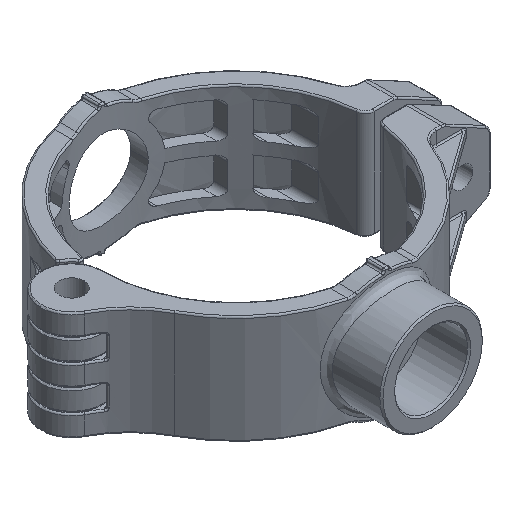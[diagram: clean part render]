
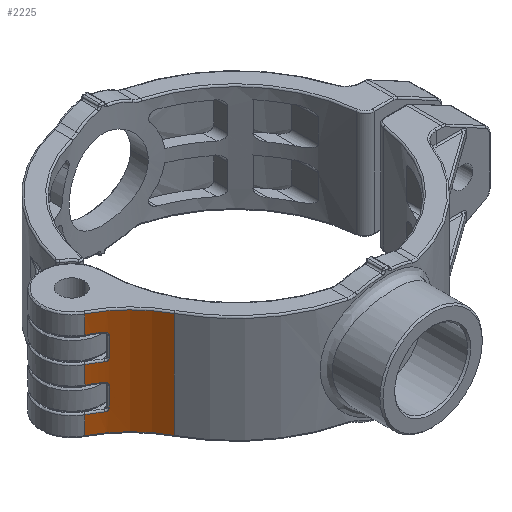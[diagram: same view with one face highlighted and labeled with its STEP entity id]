
A CAD part, isometric view. The second image highlights one B-rep face of the part: STEP entity #2225.
In plain terms, the highlighted cylindrical face has radius 35 mm (diameter 70 mm), a partial arc.
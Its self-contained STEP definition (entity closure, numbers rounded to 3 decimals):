
#354=FACE_OUTER_BOUND('',#3442,.T.);
#1095=LINE('',#13244,#1521);
#1116=LINE('',#13860,#1542);
#1117=LINE('',#13874,#1543);
#1118=LINE('',#13887,#1544);
#1119=LINE('',#13890,#1545);
#1120=LINE('',#13903,#1546);
#1521=VECTOR('',#10603,1.);
#1542=VECTOR('',#10760,1.);
#1543=VECTOR('',#10763,1.);
#1544=VECTOR('',#10766,1.);
#1545=VECTOR('',#10769,1.);
#1546=VECTOR('',#10772,1.);
#1954=CYLINDRICAL_SURFACE('',#9635,35.);
#2225=ADVANCED_FACE('',(#354),#1954,.F.);
#2827=CIRCLE('',#9628,35.);
#2828=CIRCLE('',#9630,35.);
#2829=CIRCLE('',#9631,35.);
#2830=CIRCLE('',#9632,35.);
#2831=CIRCLE('',#9633,35.);
#2832=CIRCLE('',#9634,35.);
#3442=EDGE_LOOP('',(#4206,#4207,#4208,#4209,#4210,#4211,#4212,#4213,#4214,
#4215,#4216,#4217,#4218,#4219,#4220,#4221));
#4206=ORIENTED_EDGE('',*,*,#7898,.T.);
#4207=ORIENTED_EDGE('',*,*,#7899,.T.);
#4208=ORIENTED_EDGE('',*,*,#7900,.T.);
#4209=ORIENTED_EDGE('',*,*,#7901,.F.);
#4210=ORIENTED_EDGE('',*,*,#7902,.T.);
#4211=ORIENTED_EDGE('',*,*,#7903,.T.);
#4212=ORIENTED_EDGE('',*,*,#7904,.T.);
#4213=ORIENTED_EDGE('',*,*,#7905,.T.);
#4214=ORIENTED_EDGE('',*,*,#7796,.F.);
#4215=ORIENTED_EDGE('',*,*,#7897,.T.);
#4216=ORIENTED_EDGE('',*,*,#7906,.T.);
#4217=ORIENTED_EDGE('',*,*,#7907,.T.);
#4218=ORIENTED_EDGE('',*,*,#7908,.T.);
#4219=ORIENTED_EDGE('',*,*,#7909,.F.);
#4220=ORIENTED_EDGE('',*,*,#7910,.T.);
#4221=ORIENTED_EDGE('',*,*,#7911,.T.);
#6917=VERTEX_POINT('',#13243);
#6918=VERTEX_POINT('',#13245);
#6991=VERTEX_POINT('',#13857);
#6992=VERTEX_POINT('',#13861);
#6993=VERTEX_POINT('',#13862);
#6994=VERTEX_POINT('',#13864);
#6995=VERTEX_POINT('',#13873);
#6996=VERTEX_POINT('',#13875);
#6997=VERTEX_POINT('',#13884);
#6998=VERTEX_POINT('',#13886);
#6999=VERTEX_POINT('',#13888);
#7000=VERTEX_POINT('',#13891);
#7001=VERTEX_POINT('',#13893);
#7002=VERTEX_POINT('',#13902);
#7003=VERTEX_POINT('',#13904);
#7004=VERTEX_POINT('',#13913);
#7796=EDGE_CURVE('',#6917,#6918,#1095,.T.);
#7897=EDGE_CURVE('',#6917,#6991,#2827,.T.);
#7898=EDGE_CURVE('',#6992,#6993,#1116,.T.);
#7899=EDGE_CURVE('',#6993,#6994,#2828,.T.);
#7900=EDGE_CURVE('',#6994,#6995,#9239,.T.);
#7901=EDGE_CURVE('',#6996,#6995,#1117,.T.);
#7902=EDGE_CURVE('',#6996,#6997,#9240,.T.);
#7903=EDGE_CURVE('',#6997,#6998,#2829,.T.);
#7904=EDGE_CURVE('',#6998,#6999,#1118,.T.);
#7905=EDGE_CURVE('',#6999,#6918,#2830,.T.);
#7906=EDGE_CURVE('',#6991,#7000,#1119,.T.);
#7907=EDGE_CURVE('',#7000,#7001,#2831,.T.);
#7908=EDGE_CURVE('',#7001,#7002,#9241,.T.);
#7909=EDGE_CURVE('',#7003,#7002,#1120,.T.);
#7910=EDGE_CURVE('',#7003,#7004,#9242,.T.);
#7911=EDGE_CURVE('',#7004,#6992,#2832,.T.);
#9239=B_SPLINE_CURVE_WITH_KNOTS('',3,(#13865,#13866,#13867,#13868,#13869,
#13870,#13871,#13872),.UNSPECIFIED.,.F.,.F.,(4,1,1,1,1,4),(0.,0.2,0.4,0.6,
0.8,1.),.UNSPECIFIED.);
#9240=B_SPLINE_CURVE_WITH_KNOTS('',3,(#13876,#13877,#13878,#13879,#13880,
#13881,#13882,#13883),.UNSPECIFIED.,.F.,.F.,(4,1,1,1,1,4),(0.,0.2,0.4,0.6,
0.8,1.),.UNSPECIFIED.);
#9241=B_SPLINE_CURVE_WITH_KNOTS('',3,(#13894,#13895,#13896,#13897,#13898,
#13899,#13900,#13901),.UNSPECIFIED.,.F.,.F.,(4,1,1,1,1,4),(0.,0.2,0.4,0.6,
0.8,1.),.UNSPECIFIED.);
#9242=B_SPLINE_CURVE_WITH_KNOTS('',3,(#13905,#13906,#13907,#13908,#13909,
#13910,#13911,#13912),.UNSPECIFIED.,.F.,.F.,(4,1,1,1,1,4),(0.,0.2,0.4,0.6,
0.8,1.),.UNSPECIFIED.);
#9628=AXIS2_PLACEMENT_3D('',#13858,#10756,#10757);
#9630=AXIS2_PLACEMENT_3D('',#13863,#10761,#10762);
#9631=AXIS2_PLACEMENT_3D('',#13885,#10764,#10765);
#9632=AXIS2_PLACEMENT_3D('',#13889,#10767,#10768);
#9633=AXIS2_PLACEMENT_3D('',#13892,#10770,#10771);
#9634=AXIS2_PLACEMENT_3D('',#13914,#10773,#10774);
#9635=AXIS2_PLACEMENT_3D('',#13915,#10775,#10776);
#10603=DIRECTION('',(0.,0.,-1.));
#10756=DIRECTION('',(0.,0.,1.));
#10757=DIRECTION('',(0.88,0.475,0.));
#10760=DIRECTION('',(0.,0.,-1.));
#10761=DIRECTION('',(0.,0.,-1.));
#10762=DIRECTION('',(0.465,0.885,0.));
#10763=DIRECTION('',(0.,0.,1.));
#10764=DIRECTION('',(0.,0.,1.));
#10765=DIRECTION('',(0.579,0.815,0.));
#10766=DIRECTION('',(0.,0.,-1.));
#10767=DIRECTION('',(0.,0.,-1.));
#10768=DIRECTION('',(0.465,0.885,0.));
#10769=DIRECTION('',(0.,0.,-1.));
#10770=DIRECTION('',(0.,0.,-1.));
#10771=DIRECTION('',(0.465,0.885,0.));
#10772=DIRECTION('',(0.,0.,1.));
#10773=DIRECTION('',(0.,0.,1.));
#10774=DIRECTION('',(0.579,0.815,0.));
#10775=DIRECTION('',(0.,0.,1.));
#10776=DIRECTION('',(-0.88,-0.475,0.));
#13243=CARTESIAN_POINT('',(-42.932,-23.2,17.));
#13244=CARTESIAN_POINT('',(-42.932,-23.2,17.));
#13245=CARTESIAN_POINT('',(-42.932,-23.2,-17.));
#13857=CARTESIAN_POINT('',(-57.45,-8.853,17.));
#13858=CARTESIAN_POINT('',(-73.724,-39.839,17.));
#13860=CARTESIAN_POINT('',(-57.45,-8.853,2.85));
#13861=CARTESIAN_POINT('',(-57.45,-8.853,2.85));
#13862=CARTESIAN_POINT('',(-57.45,-8.853,-2.85));
#13863=CARTESIAN_POINT('',(-73.724,-39.839,-2.85));
#13864=CARTESIAN_POINT('',(-53.452,-11.308,-2.85));
#13865=CARTESIAN_POINT('',(-53.452,-11.308,-2.85));
#13866=CARTESIAN_POINT('',(-53.367,-11.369,-2.85));
#13867=CARTESIAN_POINT('',(-53.205,-11.485,-2.882));
#13868=CARTESIAN_POINT('',(-52.977,-11.651,-3.025));
#13869=CARTESIAN_POINT('',(-52.797,-11.785,-3.25));
#13870=CARTESIAN_POINT('',(-52.682,-11.871,-3.537));
#13871=CARTESIAN_POINT('',(-52.656,-11.891,-3.742));
#13872=CARTESIAN_POINT('',(-52.656,-11.891,-3.849));
#13873=CARTESIAN_POINT('',(-52.656,-11.891,-3.849));
#13874=CARTESIAN_POINT('',(-52.656,-11.891,-10.15));
#13875=CARTESIAN_POINT('',(-52.656,-11.891,-10.15));
#13876=CARTESIAN_POINT('',(-52.656,-11.891,-10.15));
#13877=CARTESIAN_POINT('',(-52.656,-11.891,-10.257));
#13878=CARTESIAN_POINT('',(-52.682,-11.871,-10.461));
#13879=CARTESIAN_POINT('',(-52.796,-11.785,-10.749));
#13880=CARTESIAN_POINT('',(-52.977,-11.651,-10.976));
#13881=CARTESIAN_POINT('',(-53.207,-11.483,-11.119));
#13882=CARTESIAN_POINT('',(-53.367,-11.368,-11.15));
#13883=CARTESIAN_POINT('',(-53.452,-11.308,-11.15));
#13884=CARTESIAN_POINT('',(-53.452,-11.308,-11.15));
#13885=CARTESIAN_POINT('',(-73.724,-39.839,-11.15));
#13886=CARTESIAN_POINT('',(-57.45,-8.853,-11.15));
#13887=CARTESIAN_POINT('',(-57.45,-8.853,-11.15));
#13888=CARTESIAN_POINT('',(-57.45,-8.853,-17.));
#13889=CARTESIAN_POINT('',(-73.724,-39.839,-17.));
#13890=CARTESIAN_POINT('',(-57.45,-8.853,17.));
#13891=CARTESIAN_POINT('',(-57.45,-8.853,11.15));
#13892=CARTESIAN_POINT('',(-73.724,-39.839,11.15));
#13893=CARTESIAN_POINT('',(-53.452,-11.308,11.15));
#13894=CARTESIAN_POINT('',(-53.452,-11.308,11.15));
#13895=CARTESIAN_POINT('',(-53.367,-11.369,11.15));
#13896=CARTESIAN_POINT('',(-53.205,-11.485,11.118));
#13897=CARTESIAN_POINT('',(-52.977,-11.651,10.975));
#13898=CARTESIAN_POINT('',(-52.797,-11.785,10.75));
#13899=CARTESIAN_POINT('',(-52.682,-11.871,10.463));
#13900=CARTESIAN_POINT('',(-52.656,-11.891,10.258));
#13901=CARTESIAN_POINT('',(-52.656,-11.891,10.151));
#13902=CARTESIAN_POINT('',(-52.656,-11.891,10.151));
#13903=CARTESIAN_POINT('',(-52.656,-11.891,3.85));
#13904=CARTESIAN_POINT('',(-52.656,-11.891,3.85));
#13905=CARTESIAN_POINT('',(-52.656,-11.891,3.85));
#13906=CARTESIAN_POINT('',(-52.656,-11.891,3.743));
#13907=CARTESIAN_POINT('',(-52.682,-11.871,3.539));
#13908=CARTESIAN_POINT('',(-52.796,-11.785,3.251));
#13909=CARTESIAN_POINT('',(-52.977,-11.651,3.024));
#13910=CARTESIAN_POINT('',(-53.207,-11.483,2.881));
#13911=CARTESIAN_POINT('',(-53.367,-11.368,2.85));
#13912=CARTESIAN_POINT('',(-53.452,-11.308,2.85));
#13913=CARTESIAN_POINT('',(-53.452,-11.308,2.85));
#13914=CARTESIAN_POINT('',(-73.724,-39.839,2.85));
#13915=CARTESIAN_POINT('',(-73.724,-39.839,-63.126));
